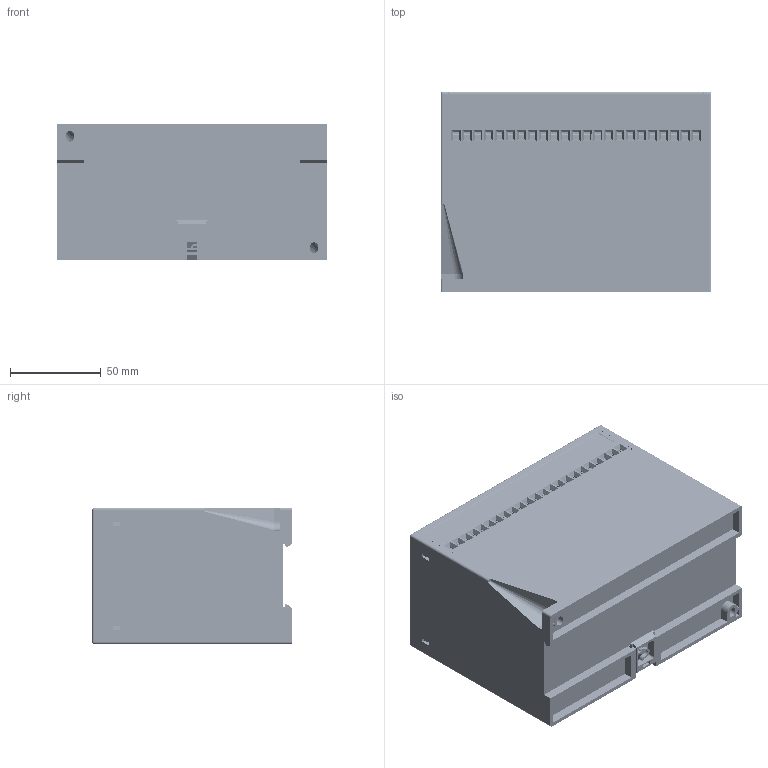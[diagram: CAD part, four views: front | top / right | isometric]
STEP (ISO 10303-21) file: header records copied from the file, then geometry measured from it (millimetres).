
FILE_DESCRIPTION(/* description */ (''),/* implementation_level */ '2;1');
FILE_NAME(/* name */ 'FAS_HAS_LSU.stp',/* time_stamp */ '2024-01-08T11:40:34+01:00',/* author */ ('DSP'),/* organization */ (''),/* preprocessor_version */ 'ST-DEVELOPER v19.2',/* originating_system */ 'Autodesk Inventor 2023',/* authorisation */ '');
FILE_SCHEMA (('AUTOMOTIVE_DESIGN { 1 0 10303 214 3 1 1 }'));
Products named in the file (1): FAS_HAS_LSU
Bounding box: 149 x 110 x 75 mm (x, y, z)
Volume: 314000.7 mm3; surface area: 294297.9 mm2
Topology: 1 solids, 1 shells, 29186 faces, 71572 edges, 43221 vertices
Faces by surface type: plane 23312, cylinder 5223, bspline 258, cone 197, torus 188, sphere 8
Full cylindrical faces by diameter (mm): 0.3 x2, 0.36 x2, 1.4 x4, 1.6 x46, 1.7 x46, 1.92 x16, 2.1 x46, 2.2 x10, 2.5 x92, 2.6 x8, 3 x54, 3.06 x1, 3.2 x1, 4 x46, 4.3 x4, 4.5 x46, 4.8 x46
Entity records: 886133 total; most frequent: CARTESIAN_POINT 168046, ORIENTED_EDGE 143124, DIRECTION 140141, EDGE_CURVE 71562, LINE 59729, VECTOR 59729, VERTEX_POINT 43221, AXIS2_PLACEMENT_3D 40206
